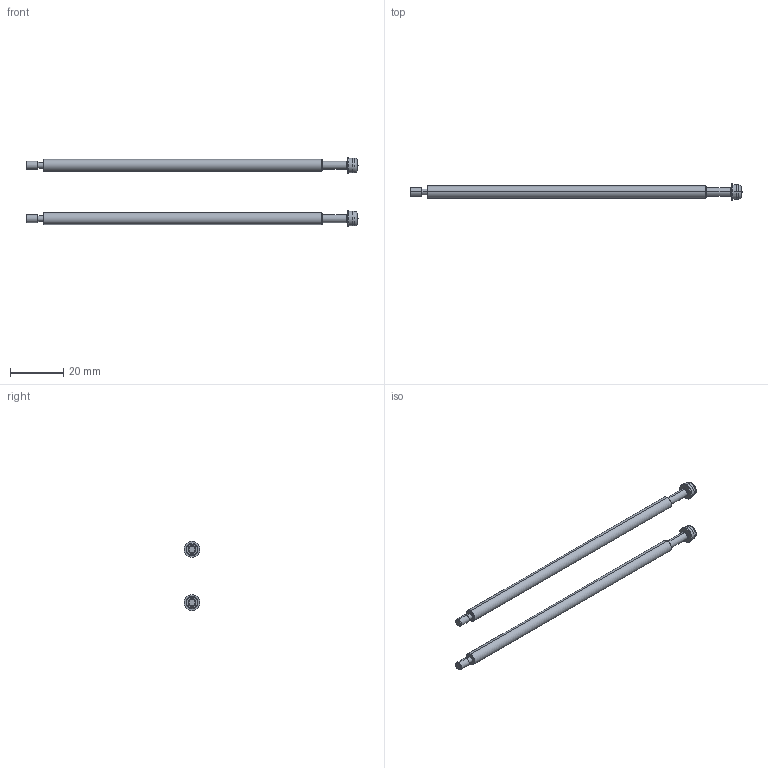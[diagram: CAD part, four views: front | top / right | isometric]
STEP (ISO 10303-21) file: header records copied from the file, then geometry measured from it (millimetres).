
FILE_DESCRIPTION( (''), '2;1');
FILE_NAME ('YS8Z-5.stp','2022-12-01T14:58:42',(''),(''),'spGate 12.6.6','','');
FILE_SCHEMA (('AUTOMOTIVE_DESIGN'));
Length unit declared in the file: millimetre
Products named in the file (3): Assembly; YS8Z-5-prt0; YS8Z-5-prt1
Assembly tree (4 placements, depth 2):
  Assembly
    YS8Z-5-prt0  x2
    YS8Z-5-prt1  x2
Bounding box: 124.9 x 6 x 26 mm (x, y, z)
Volume: 3602.9 mm3; surface area: 3830.8 mm2
Topology: 4 solids, 4 shells, 94 faces, 188 edges, 108 vertices
Faces by surface type: cylinder 40, bspline 32, plane 18, sphere 4
Entity records: 2150 total; most frequent: CARTESIAN_POINT 415, DIRECTION 182, ORIENTED_EDGE 180, COLOUR_RGB 139, PRESENTATION_STYLE_ASSIGNMENT 139, STYLED_ITEM 139, AXIS2_PLACEMENT_3D 91, EDGE_CURVE 90
